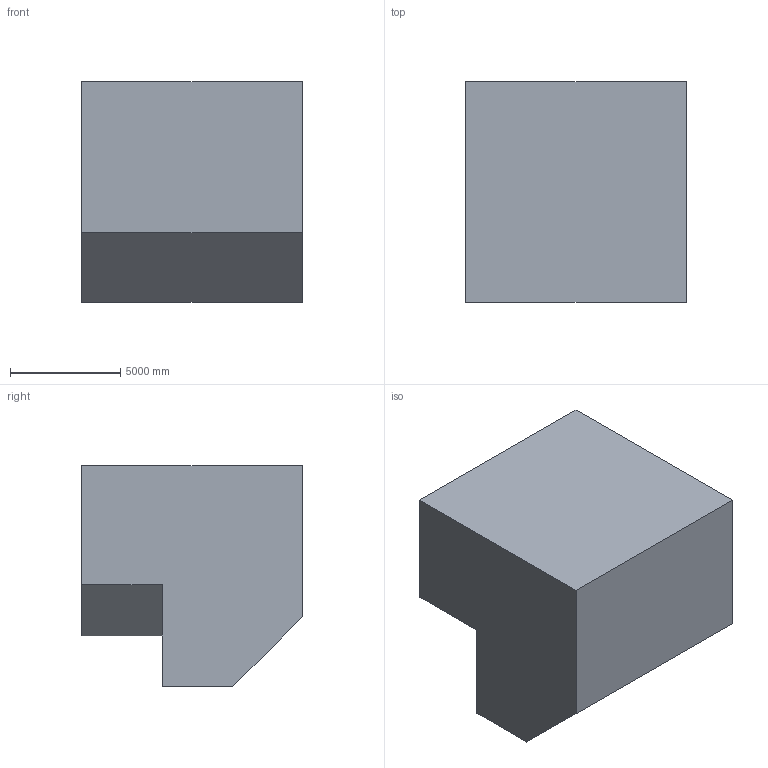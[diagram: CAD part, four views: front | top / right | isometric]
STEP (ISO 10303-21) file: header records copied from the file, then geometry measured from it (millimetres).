
FILE_DESCRIPTION (( 'STEP AP203' ), '1' );
FILE_NAME ('157.STEP', '2022-07-28T13:45:55', ( 'user' ), ( '' ), 'SwSTEP 2.0', 'SolidWorks 2021', '' );
FILE_SCHEMA (( 'CONFIG_CONTROL_DESIGN' ));
Length unit declared in the file: centimetre
Products named in the file (1): 157
Bounding box: 10000 x 10000 x 10000 mm (x, y, z)
Volume: 824721075906.3 mm3; surface area: 541766962 mm2
Topology: 1 solids, 1 shells, 10 faces, 24 edges, 16 vertices
Faces by surface type: plane 10
Entity records: 365 total; most frequent: CARTESIAN_POINT 51, ORIENTED_EDGE 48, DIRECTION 46, LINE 24, VECTOR 24, EDGE_CURVE 24, VERTEX_POINT 16, AXIS2_PLACEMENT_3D 11
